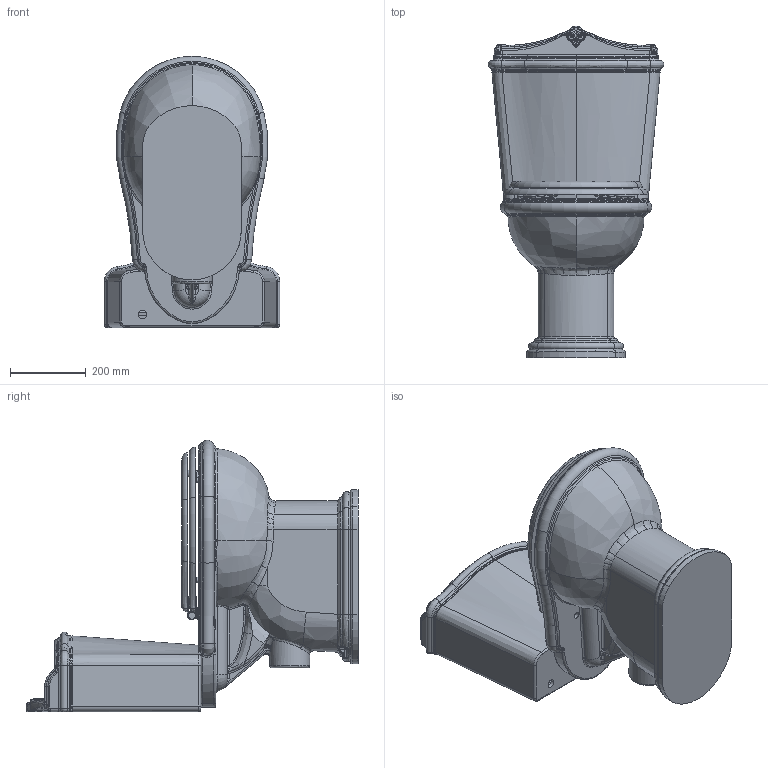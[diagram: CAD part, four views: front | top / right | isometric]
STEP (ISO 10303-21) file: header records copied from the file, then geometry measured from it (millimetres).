
FILE_DESCRIPTION (( 'STEP AP214' ), '1' );
FILE_NAME ('JUB100_MBP JC1800 JUB400_MBL.STEP', '2017-12-12T06:29:30', ( '' ), ( '' ), 'SwSTEP 2.0', 'SolidWorks 2018', '' );
FILE_SCHEMA (( 'AUTOMOTIVE_DESIGN' ));
Length unit declared in the file: millimetre
Products named in the file (6): JUB400_MBL; JUB400_MBLcoperchio; JUB400_MBLcass; JC1800; JUB100_MBP; JUB100_MBP JC1800 JUB400_MBL
Assembly tree (5 placements, depth 3):
  JUB100_MBP JC1800 JUB400_MBL
    JUB100_MBP
    JC1800
    JUB400_MBL
      JUB400_MBLcass
      JUB400_MBLcoperchio
Bounding box: 463.59 x 875.97 x 716.01 mm (x, y, z)
Volume: 37057687.1 mm3; surface area: 2792736.9 mm2
Topology: 4 solids, 4 shells, 1070 faces, 2533 edges, 1459 vertices
Faces by surface type: bspline 514, cylinder 211, torus 154, plane 153, sphere 30, cone 8
Full cylindrical faces by diameter (mm): 10 x2, 15 x2, 16 x2, 20 x2, 22 x1, 30 x2, 42 x1, 64 x1, 75 x1, 85 x1, 105 x1, 115 x1
Entity records: 65499 total; most frequent: CARTESIAN_POINT 44663, ORIENTED_EDGE 4934, DIRECTION 3478, EDGE_CURVE 2467, AXIS2_PLACEMENT_3D 1509, VERTEX_POINT 1447, EDGE_LOOP 1138, FACE_OUTER_BOUND 1096
